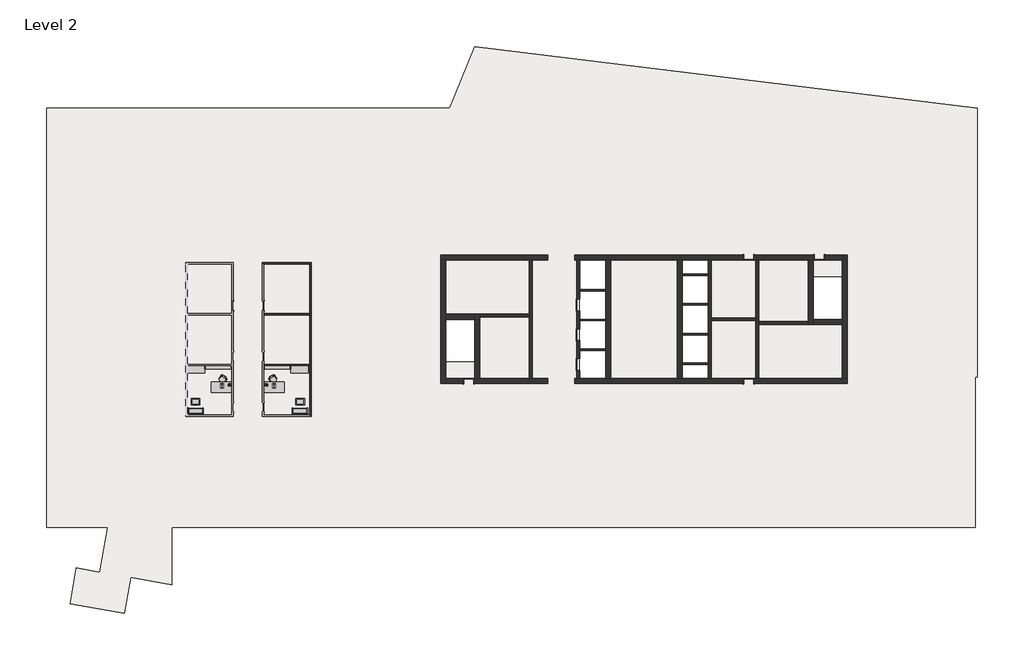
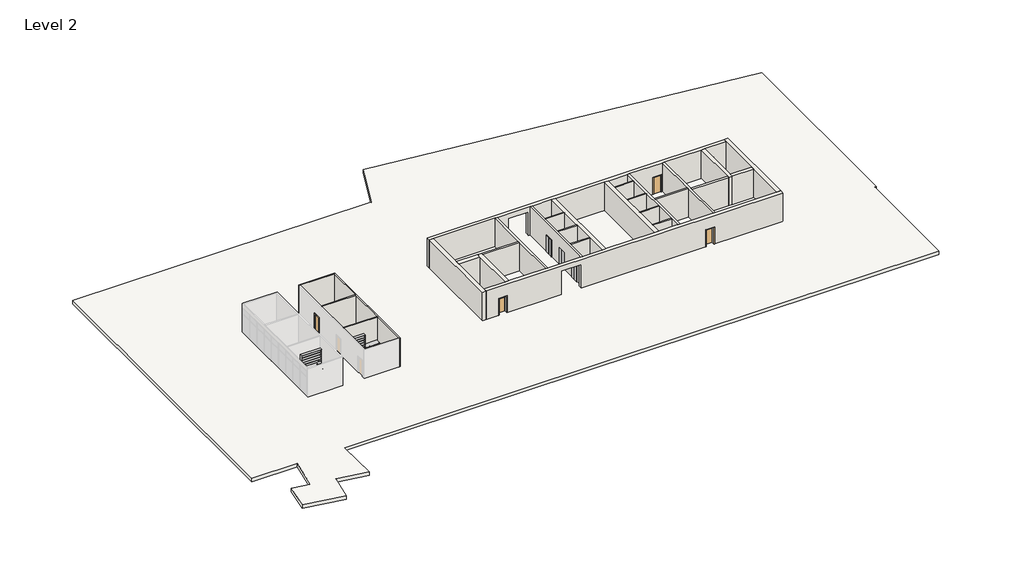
# One storey, part 2 of 2: 28 walls, 12 furniture elements, 7 proxies, 6 doors, 1 slab.
"""IFC4 building model written with IfcOpenShell, lengths in millimetres."""

from ifc_helpers import new_model, si_unit, frame, origin, place, context, project, spatial, polyline, outline, extrude, faceted_brep, transform, mapped, element, save
from components import entourage_0ad6723a, entourage_8dadc95b, proxy_7fed659c, phone_phone_5230e7aa, phone_phone_b8b7aebd, door_82111de5, door_92889684, door_3c99239a, door_aec9db07, chair_executive_chair_executive_8d69e98c, chair_executive_chair_executive_a5be4872, furniture_894c625b, furniture_2f1724fb, furniture_2fc54265, furniture_91cd4dc0, furniture_b1da5ad0, furniture_33c9adaf, furniture_22419f35, furniture_8ec9ccbf, furniture_5f90431c, furniture_32e53e92

model = new_model("IFC4")

# Units and contexts
model_context = context("Model", 3, world=origin())
ifc_project = project(units=[si_unit("LENGTHUNIT", "METRE", prefix="MILLI")], contexts=[model_context])

# Site, building, storey
site = spatial("IfcSite", under=ifc_project)
building = spatial("IfcBuilding", under=site)
storey = spatial("IfcBuildingStorey", under=building, Name="Level 2", Elevation=3657.6)

# Proxies
placement = place(None, origin())
entourage_shape = entourage_0ad6723a(model_context)
element("IfcBuildingElementProxy", 1, Name="RPC Notebook Computer : RPC Notebook Computer", ObjectType="RPC Notebook Computer : RPC Notebook Computer", at=placement, inside=storey, context=model_context, shape_type="MappedRepresentation", body=[
    mapped(entourage_shape, transform((-52901.4856498, -14963.1103492, 4419.6), x_axis=(-1.0, 0.0, 0.0), y_axis=(0.0, -1.0, 0.0), z_axis=(0.0, 0.0, 1.0))),
])
entourage_2_shape = entourage_8dadc95b(model_context)
element("IfcBuildingElementProxy", 2, Name="RPC Notebook Computer : RPC Notebook Computer", ObjectType="RPC Notebook Computer : RPC Notebook Computer", at=placement, inside=storey, context=model_context, shape_type="MappedRepresentation", body=[
    mapped(entourage_2_shape, transform((-48216.9999355, -14963.1103492, 4419.6), x_axis=(1.0, 0.0, 0.0), y_axis=(0.0, 1.0, 0.0), z_axis=(0.0, 0.0, 1.0))),
])
proxy_shape = proxy_7fed659c(model_context)
element("IfcBuildingElementProxy", 3, Name="Elevator%20Door-Center[1] : 42\" x 84\"", ObjectType="Elevator%20Door-Center[1] : 42\" x 84\"", at=placement, inside=storey, context=model_context, shape_type="MappedRepresentation", body=[
    mapped(proxy_shape, transform((-20852.1285069, -7663.0747049, 3657.6), x_axis=(0.0, 1.0, 0.0), y_axis=(-1.0, 0.0, 0.0), z_axis=(0.0, 0.0, 1.0))),
])
element("IfcBuildingElementProxy", 4, Name="Elevator%20Door-Center[1] : 42\" x 84\"", ObjectType="Elevator%20Door-Center[1] : 42\" x 84\"", at=placement, inside=storey, context=model_context, shape_type="MappedRepresentation", body=[
    mapped(proxy_shape, transform((-20852.1285069, -10330.0747049, 3657.6), x_axis=(0.0, 1.0, 0.0), y_axis=(-1.0, 0.0, 0.0), z_axis=(0.0, 0.0, 1.0))),
])
element("IfcBuildingElementProxy", 5, Name="Elevator%20Door-Center[1] : 42\" x 84\"", ObjectType="Elevator%20Door-Center[1] : 42\" x 84\"", at=placement, inside=storey, context=model_context, shape_type="MappedRepresentation", body=[
    mapped(proxy_shape, transform((-20852.1285069, -12997.0747049, 3657.6), x_axis=(0.0, 1.0, 0.0), y_axis=(-1.0, 0.0, 0.0), z_axis=(0.0, 0.0, 1.0))),
])
phone_phone_shape = phone_phone_5230e7aa(model_context)
element("IfcBuildingElementProxy", 6, Name="Phone : Phone", ObjectType="Phone : Phone", at=placement, inside=storey, context=model_context, shape_type="MappedRepresentation", body=[
    mapped(phone_phone_shape, transform((-51981.0043036, -15147.0065782, 4419.6), x_axis=(1.0, 0.0, 0.0), y_axis=(0.0, 1.0, 0.0), z_axis=(0.0, 0.0, 1.0))),
])
phone_phone_2_shape = phone_phone_b8b7aebd(model_context)
element("IfcBuildingElementProxy", 7, Name="Phone : Phone", ObjectType="Phone : Phone", at=placement, inside=storey, context=model_context, shape_type="MappedRepresentation", body=[
    mapped(phone_phone_2_shape, transform((-49137.4812816, -15147.0065782, 4419.6), x_axis=(-1.0, 0.0, 0.0), y_axis=(0.0, -1.0, 0.0), z_axis=(0.0, 0.0, 1.0))),
])

# Doors
door_shape = door_82111de5(model_context)
element("IfcDoor", 8, ObjectType="Single-Flush : 34\" x 80\"", at=placement, inside=storey, context=model_context, shape_type="MappedRepresentation", body=[
    mapped(door_shape, transform((-51923.5856498, -7813.0103492, 3657.6), x_axis=(0.0, -1.0, 0.0), y_axis=(1.0, 0.0, 0.0), z_axis=(0.0, 0.0, 1.0))),
])
door_2_shape = door_92889684(model_context)
element("IfcDoor", 9, ObjectType="Single-Flush : 34\" x 80\"", at=placement, inside=storey, context=model_context, shape_type="MappedRepresentation", body=[
    mapped(door_2_shape, transform((-49194.8999355, -7813.0103492, 3657.6), x_axis=(0.0, -1.0, 0.0), y_axis=(1.0, 0.0, 0.0), z_axis=(0.0, 0.0, 1.0))),
])
door_3_shape = door_3c99239a(model_context)
element("IfcDoor", 10, ObjectType="Single-Flush : 36\" x 84\"", at=placement, inside=storey, context=model_context, shape_type="MappedRepresentation", body=[
    mapped(door_3_shape, transform((-30700.0713641, -14594.8103492, 3657.6), x_axis=(1.0, 0.0, 0.0), y_axis=(0.0, 1.0, 0.0), z_axis=(0.0, 0.0, 1.0))),
])
element("IfcDoor", 11, ObjectType="Single-Flush : 36\" x 84\"", at=placement, inside=storey, context=model_context, shape_type="MappedRepresentation", body=[
    mapped(door_3_shape, transform((817.7000645, -3469.6103492, 3657.6), x_axis=(-1.0, 0.0, 0.0), y_axis=(0.0, -1.0, 0.0), z_axis=(0.0, 0.0, 1.0))),
])
element("IfcDoor", 12, ObjectType="Single-Flush : 36\" x 84\"", at=placement, inside=storey, context=model_context, shape_type="MappedRepresentation", body=[
    mapped(door_3_shape, transform((-5525.0427926, -14594.8103492, 3657.6), x_axis=(1.0, 0.0, 0.0), y_axis=(0.0, 1.0, 0.0), z_axis=(0.0, 0.0, 1.0))),
])
door_4_shape = door_aec9db07(model_context)
element("IfcDoor", 13, ObjectType="Single-Flush : 36\" x 84\"", at=placement, inside=storey, context=model_context, shape_type="MappedRepresentation", body=[
    mapped(door_4_shape, transform((-5525.0427926, -3469.6103492, 3657.6), x_axis=(1.0, 0.0, 0.0), y_axis=(0.0, 1.0, 0.0), z_axis=(0.0, 0.0, 1.0))),
])

# Furniture
chair_executive_chair_executive_shape = chair_executive_chair_executive_8d69e98c(model_context)
element("IfcFurniture", 14, ObjectType="Chair-Executive : Chair-Executive", at=placement, inside=storey, context=model_context, shape_type="MappedRepresentation", body=[
    mapped(chair_executive_chair_executive_shape, transform((-52699.1922211, -14498.6688157, 3657.6), x_axis=(-0.838670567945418, 0.5446390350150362, 0.0), y_axis=(-0.5446390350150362, -0.838670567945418, 0.0), z_axis=(0.0, 0.0, 1.0))),
])
chair_executive_chair_executive_2_shape = chair_executive_chair_executive_a5be4872(model_context)
element("IfcFurniture", 15, ObjectType="Chair-Executive : Chair-Executive", at=placement, inside=storey, context=model_context, shape_type="MappedRepresentation", body=[
    mapped(chair_executive_chair_executive_2_shape, transform((-48419.2933641, -14498.6688157, 3657.6), x_axis=(0.8386705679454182, 0.5446390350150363, 0.0), y_axis=(-0.5446390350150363, 0.8386705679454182, 0.0), z_axis=(0.0, 0.0, 1.0))),
])
furniture_shape = furniture_894c625b(model_context)
element("IfcFurniture", 16, ObjectType="Credenza : 60\" x 24\"", at=placement, inside=storey, context=model_context, shape_type="MappedRepresentation", body=[
    mapped(furniture_shape, transform((-55272.4299121, -13519.8906771, 3657.6), x_axis=(1.0, 0.0, 0.0), y_axis=(0.0, 1.0, 0.0), z_axis=(0.0, 0.0, 1.0))),
])
furniture_2_shape = furniture_2f1724fb(model_context)
element("IfcFurniture", 17, ObjectType="Credenza : 60\" x 24\"", at=placement, inside=storey, context=model_context, shape_type="MappedRepresentation", body=[
    mapped(furniture_2_shape, transform((-45846.0556732, -13519.8906771, 3657.6), x_axis=(-1.0, 0.0, 0.0), y_axis=(0.0, -1.0, 0.0), z_axis=(0.0, 0.0, 1.0))),
])
furniture_3_shape = furniture_2fc54265(model_context)
element("IfcFurniture", 18, ObjectType="Desk : 72\" x 36\"", at=placement, inside=storey, context=model_context, shape_type="MappedRepresentation", body=[
    mapped(furniture_3_shape, transform((-53815.8856498, -15610.8103492, 3657.6), x_axis=(1.0000000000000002, 0.0, 0.0), y_axis=(0.0, 1.0000000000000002, 0.0), z_axis=(0.0, 0.0, 1.0))),
])
furniture_4_shape = furniture_91cd4dc0(model_context)
element("IfcFurniture", 19, ObjectType="Desk : 72\" x 36\"", at=placement, inside=storey, context=model_context, shape_type="MappedRepresentation", body=[
    mapped(furniture_4_shape, transform((-47302.5999355, -15610.8103492, 3657.6), x_axis=(-1.0, 0.0, 0.0), y_axis=(0.0, -1.0, 0.0), z_axis=(0.0, 0.0, 1.0))),
])
furniture_5_shape = furniture_b1da5ad0(model_context)
element("IfcFurniture", 20, ObjectType="Shelving : 96\" x 12\" x 84\"", at=placement, inside=storey, context=model_context, shape_type="MappedRepresentation", body=[
    mapped(furniture_5_shape, transform((-53206.2856498, -13058.1103492, 3657.6), x_axis=(1.0, 0.0, 0.0), y_axis=(0.0, 1.0, 0.0), z_axis=(0.0, 0.0, 1.0))),
])
furniture_6_shape = furniture_33c9adaf(model_context)
element("IfcFurniture", 21, ObjectType="Shelving : 96\" x 12\" x 84\"", at=placement, inside=storey, context=model_context, shape_type="MappedRepresentation", body=[
    mapped(furniture_6_shape, transform((-47912.1999355, -13058.1103492, 3657.6), x_axis=(-1.0, 0.0, 0.0), y_axis=(0.0, -1.0, 0.0), z_axis=(0.0, 0.0, 1.0))),
])
furniture_7_shape = furniture_22419f35(model_context)
element("IfcFurniture", 22, ObjectType="Sofa : 54\"", at=placement, inside=storey, context=model_context, shape_type="MappedRepresentation", body=[
    mapped(furniture_7_shape, transform((-55167.915158, -17174.6119184, 3657.6), x_axis=(-1.0, 0.0, 0.0), y_axis=(0.0, -1.0, 0.0), z_axis=(0.0, 0.0, 1.0))),
])
furniture_8_shape = furniture_8ec9ccbf(model_context)
element("IfcFurniture", 23, ObjectType="Sofa : 54\"", at=placement, inside=storey, context=model_context, shape_type="MappedRepresentation", body=[
    mapped(furniture_8_shape, transform((-45950.5704273, -17174.6119184, 3657.6), x_axis=(1.0, 0.0, 0.0), y_axis=(0.0, 1.0, 0.0), z_axis=(0.0, 0.0, 1.0))),
])
furniture_9_shape = furniture_5f90431c(model_context)
element("IfcFurniture", 24, ObjectType="Table-Coffee : 31\" x 28\" x 24\"", at=placement, inside=storey, context=model_context, shape_type="MappedRepresentation", body=[
    mapped(furniture_9_shape, transform((-55168.474572, -16475.4317834, 3657.6), x_axis=(0.0, 1.0, 0.0), y_axis=(-1.0, 0.0, 0.0), z_axis=(0.0, 0.0, 1.0))),
])
furniture_10_shape = furniture_32e53e92(model_context)
element("IfcFurniture", 25, ObjectType="Table-Coffee : 31\" x 28\" x 24\"", at=placement, inside=storey, context=model_context, shape_type="MappedRepresentation", body=[
    mapped(furniture_10_shape, transform((-45950.0110133, -16475.4317834, 3657.6), x_axis=(0.0, 1.0, 0.0), y_axis=(-1.0, 0.0, 0.0), z_axis=(0.0, 0.0, 1.0))),
])

# Slab
element("IfcSlab", 26, ObjectType="Steel Bar Joist 14\" - Concrete", at=placement, inside=storey, context=model_context, shape_type="SweptSolid", body=[
    extrude(outline(polyline([(-68660.7599961, -27742.4853492), (-68660.7599961, 9954.2896508), (-32421.4843139, 9954.2896508), (-30175.817983, 15512.5088637), (15043.3054088, 9960.2986536), (15043.3054088, -14218.4266737), (14830.5804088, -14218.4266737), (14830.5804088, -27735.220667), (-57415.8125003, -27735.220667), (-57415.8125003, -32919.911766), (-61087.9334678, -32272.417763), (-61658.0117526, -35505.4923758), (-66551.3983764, -34642.656287), (-65981.3200915, -31409.5816742), (-63880.1342697, -31780.0774261), (-63168.1978494, -27742.4853492), (-68660.7599961, -27742.4853492)]), holes=[polyline([(-32750.2142212, -9032.2103492), (-32750.2142212, -12842.2103492), (-30166.6713641, -12842.2103492), (-30166.6713641, -9032.2103492), (-32750.2142212, -9032.2103492)]), polyline([(-20725.1285069, -3698.2103492), (-20725.1285069, -14366.2103492), (-18385.1284437, -14366.2103492), (-18385.1284437, -3698.2103492), (-20725.1285069, -3698.2103492)]), polyline([(-9157.2427926, -3698.2103492), (-11497.2428559, -3698.2103492), (-11497.2428559, -14366.2103492), (-9157.2427926, -14366.2103492), (-9157.2427926, -3698.2103492)]), polyline([(2867.8429217, -9032.2103492), (2867.8429217, -5222.2103492), (284.3000645, -5222.2103492), (284.3000645, -9032.2103492), (2867.8429217, -9032.2103492)])]), frame((0.0, 0.0, 3222.625), z_axis=(0.0, 0.0, 1.0), x_axis=(1.0, 0.0, 0.0)), (0.0, 0.0, 1.0), 434.975),
])

# Walls
element("IfcWall", 27, ObjectType="Core-shaft 10\" Concrete", at=placement, inside=storey, context=model_context, shape_type="SweptSolid", body=[
    extrude(outline(polyline([(-14366.2103492, 7315.2), (-3698.2103492, 7315.2), (-3698.2103492, 3657.6), (-7222.4603492, 3657.6), (-7222.4603492, 5816.6), (-8301.9603492, 5816.6), (-8301.9603492, 3657.6), (-9889.4603492, 3657.6), (-9889.4603492, 5816.6), (-10968.9603492, 5816.6), (-10968.9603492, 3657.6), (-12556.4603492, 3657.6), (-12556.4603492, 5816.6), (-13635.9603492, 5816.6), (-13635.9603492, 3657.6), (-14366.2103492, 3657.6), (-14366.2103492, 7315.2)])), frame((-20979.1285069, 0.0, 0.0), z_axis=(1.0, 0.0, 0.0), x_axis=(0.0, 1.0, 0.0)), (0.0, 0.0, 1.0), 254.0),
])
element("IfcWall", 28, ObjectType="Core-shaft 10\" Concrete", at=placement, inside=storey, context=model_context, shape_type="Brep", body=[
    faceted_brep([(-24992.3285069, -14366.2103492, 3657.6), (-24992.3285069, -3698.2103492, 3657.6), (-24992.3285069, -3698.2103492, 7315.2), (-24992.3285069, -14366.2103492, 7315.2), (-25246.3285069, -14366.2103492, 3657.6), (-25246.3285069, -14366.2103492, 7315.2), (-25246.3285069, -8829.0103492, 7315.2), (-25246.3285069, -8575.0103492, 7315.2), (-25246.3285069, -3698.2103492, 7315.2), (-25246.3285069, -3698.2103492, 3657.6), (-25246.3285069, -8575.0103492, 3657.6), (-25246.3285069, -8829.0103492, 3657.6)], [[[0, 1, 2, 3]], [[4, 5, 6, 7, 8, 9, 10, 11]], [[1, 0, 4, 11, 10, 9]], [[3, 2, 8, 7, 6, 5]], [[2, 1, 9, 8]], [[0, 3, 5, 4]]]),
])
element("IfcWall", 29, ObjectType="Core-shaft 10\" Concrete", at=placement, inside=storey, context=model_context, shape_type="SweptSolid", body=[
    extrude(outline(polyline([(-25246.3285069, -8829.0103492), (-29709.4713641, -8829.0103492), (-29709.4713641, -8575.0103492), (-25246.3285069, -8575.0103492), (-25246.3285069, -8829.0103492)])), frame((0.0, 0.0, 3657.6), z_axis=(0.0, 0.0, 1.0), x_axis=(1.0, 0.0, 0.0)), (0.0, 0.0, 1.0), 3657.6),
])
element("IfcWall", 30, ObjectType="Core-shaft 10\" Concrete", at=placement, inside=storey, context=model_context, shape_type="SweptSolid", body=[
    extrude(outline(polyline([(-8903.2427926, -3698.2103492), (-8903.2427926, -14366.2103492), (-9157.2427926, -14366.2103492), (-9157.2427926, -3698.2103492), (-8903.2427926, -3698.2103492)])), frame((0.0, 0.0, 3657.6), z_axis=(0.0, 0.0, 1.0), x_axis=(1.0, 0.0, 0.0)), (0.0, 0.0, 1.0), 3657.6),
])
element("IfcWall", 31, ObjectType="Core-shaft 10\" Concrete", at=placement, inside=storey, context=model_context, shape_type="Brep", body=[
    faceted_brep([(-4636.0427926, -14366.2103492, 3657.6), (-4636.0427926, -9489.4103492, 3657.6), (-4636.0427926, -9235.4103492, 3657.6), (-4636.0427926, -3698.2103492, 3657.6), (-4636.0427926, -3698.2103492, 7315.2), (-4636.0427926, -9235.4103492, 7315.2), (-4636.0427926, -9489.4103492, 7315.2), (-4636.0427926, -14366.2103492, 7315.2), (-4890.0427926, -14366.2103492, 3657.6), (-4890.0427926, -14366.2103492, 7315.2), (-4890.0427926, -3698.2103492, 7315.2), (-4890.0427926, -3698.2103492, 3657.6)], [[[0, 1, 2, 3, 4, 5, 6, 7]], [[8, 9, 10, 11]], [[3, 2, 1, 0, 8, 11]], [[7, 6, 5, 4, 10, 9]], [[4, 3, 11, 10]], [[0, 7, 9, 8]]]),
])
element("IfcWall", 32, ObjectType="Core-shaft 10\" Concrete", at=placement, inside=storey, context=model_context, shape_type="SweptSolid", body=[
    extrude(outline(polyline([(-4636.0427926, -9235.4103492), (-172.8999355, -9235.4103492), (-172.8999355, -9489.4103492), (-4636.0427926, -9489.4103492), (-4636.0427926, -9235.4103492)])), frame((0.0, 0.0, 3657.6), z_axis=(0.0, 0.0, 1.0), x_axis=(1.0, 0.0, 0.0)), (0.0, 0.0, 1.0), 3657.6),
])
element("IfcWall", 33, ObjectType="Core-shaft 10\" Concrete", at=placement, inside=storey, context=model_context, shape_type="SweptSolid", body=[
    extrude(outline(polyline([(-8903.2427926, -8905.2103492), (-4890.0427926, -8905.2103492), (-4890.0427926, -9159.2103492), (-8903.2427926, -9159.2103492), (-8903.2427926, -8905.2103492)])), frame((0.0, 0.0, 3657.6), z_axis=(0.0, 0.0, 1.0), x_axis=(1.0, 0.0, 0.0)), (0.0, 0.0, 1.0), 3657.6),
])
element("IfcWall", 34, ObjectType="Core-shaft 18\" Concrete", at=placement, inside=storey, context=model_context, shape_type="Brep", body=[
    faceted_brep([(3325.0429217, -14366.2103492, 3657.6), (2867.8429217, -14366.2103492, 3657.6), (-4636.0427926, -14366.2103492, 3657.6), (-4890.0427926, -14366.2103492, 3657.6), (-5067.8427926, -14366.2103492, 3657.6), (-5067.8427926, -14366.2103492, 5791.2), (-5982.2427926, -14366.2103492, 5791.2), (-5982.2427926, -14366.2103492, 3657.6), (-8903.2427926, -14366.2103492, 3657.6), (-9157.2427926, -14366.2103492, 3657.6), (-11497.2428559, -14366.2103492, 3657.6), (-11954.4428559, -14366.2103492, 3657.6), (-17927.9284437, -14366.2103492, 3657.6), (-18385.1284437, -14366.2103492, 3657.6), (-20725.1285069, -14366.2103492, 3657.6), (-20979.1285069, -14366.2103492, 3657.6), (-21167.8142212, -14366.2103492, 3657.6), (-21167.8142212, -14366.2103492, 6705.6), (-23606.2142212, -14366.2103492, 6705.6), (-23606.2142212, -14366.2103492, 3657.6), (-24992.3285069, -14366.2103492, 3657.6), (-25246.3285069, -14366.2103492, 3657.6), (-29709.4713641, -14366.2103492, 3657.6), (-30166.6713641, -14366.2103492, 3657.6), (-30242.8713641, -14366.2103492, 3657.6), (-30242.8713641, -14366.2103492, 5791.2), (-31157.2713641, -14366.2103492, 5791.2), (-31157.2713641, -14366.2103492, 3657.6), (-32750.2142212, -14366.2103492, 3657.6), (-32750.2142212, -14366.2103492, 7315.2), (-30166.6713641, -14366.2103492, 7315.2), (-29709.4713641, -14366.2103492, 7315.2), (-25246.3285069, -14366.2103492, 7315.2), (-24992.3285069, -14366.2103492, 7315.2), (-20979.1285069, -14366.2103492, 7315.2), (-20725.1285069, -14366.2103492, 7315.2), (-18385.1284437, -14366.2103492, 7315.2), (-17927.9284437, -14366.2103492, 7315.2), (-11954.4428559, -14366.2103492, 7315.2), (-11497.2428559, -14366.2103492, 7315.2), (-9157.2427926, -14366.2103492, 7315.2), (-8903.2427926, -14366.2103492, 7315.2), (-4890.0427926, -14366.2103492, 7315.2), (-4636.0427926, -14366.2103492, 7315.2), (2867.8429217, -14366.2103492, 7315.2), (3325.0429217, -14366.2103492, 7315.2), (-5067.8427926, -14823.4103492, 5791.2), (-5067.8427926, -14823.4103492, 3657.6), (3325.0429217, -14823.4103492, 3657.6), (3325.0429217, -14823.4103492, 7315.2), (-32750.2142212, -14823.4103492, 7315.2), (-32750.2142212, -14823.4103492, 3657.6), (-31157.2713641, -14823.4103492, 3657.6), (-31157.2713641, -14823.4103492, 5791.2), (-30242.8713641, -14823.4103492, 5791.2), (-30242.8713641, -14823.4103492, 3657.6), (-23606.2142212, -14823.4103492, 3657.6), (-23606.2142212, -14823.4103492, 6705.6), (-21167.8142212, -14823.4103492, 6705.6), (-21167.8142212, -14823.4103492, 3657.6), (-5982.2427926, -14823.4103492, 3657.6), (-5982.2427926, -14823.4103492, 5791.2)], [[[0, 1, 2, 3, 4, 5, 6, 7, 8, 9, 10, 11, 12, 13, 14, 15, 16, 17, 18, 19, 20, 21, 22, 23, 24, 25, 26, 27, 28, 29, 30, 31, 32, 33, 34, 35, 36, 37, 38, 39, 40, 41, 42, 43, 44, 45]], [[46, 47, 48, 49, 50, 51, 52, 53, 54, 55, 56, 57, 58, 59, 60, 61]], [[52, 51, 28, 27]], [[56, 55, 24, 23, 22, 21, 20, 19]], [[60, 59, 16, 15, 14, 13, 12, 11, 10, 9, 8, 7]], [[48, 47, 4, 3, 2, 1, 0]], [[45, 44, 43, 42, 41, 40, 39, 38, 37, 36, 35, 34, 33, 32, 31, 30, 29, 50, 49]], [[17, 58, 57, 18]], [[58, 17, 16, 59]], [[18, 57, 56, 19]], [[25, 24, 55, 54]], [[26, 25, 54, 53]], [[27, 26, 53, 52]], [[5, 4, 47, 46]], [[6, 5, 46, 61]], [[7, 6, 61, 60]], [[0, 45, 49, 48]], [[29, 28, 51, 50]]]),
])
element("IfcWall", 35, ObjectType="Core-shaft 18\" Concrete", at=placement, inside=storey, context=model_context, shape_type="Brep", body=[
    faceted_brep([(2867.8429217, -3241.0103492, 3657.6), (2867.8429217, -3698.2103492, 3657.6), (2867.8429217, -9032.2103492, 3657.6), (2867.8429217, -9489.4103492, 3657.6), (2867.8429217, -14366.2103492, 3657.6), (2867.8429217, -14366.2103492, 7315.2), (2867.8429217, -9489.4103492, 7315.2), (2867.8429217, -9032.2103492, 7315.2), (2867.8429217, -3698.2103492, 7315.2), (2867.8429217, -3241.0103492, 7315.2), (3325.0429217, -3241.0103492, 3657.6), (3325.0429217, -3241.0103492, 7315.2), (3325.0429217, -14366.2103492, 7315.2), (3325.0429217, -14366.2103492, 3657.6)], [[[0, 1, 2, 3, 4, 5, 6, 7, 8, 9]], [[10, 11, 12, 13]], [[4, 3, 2, 1, 0, 10, 13]], [[9, 8, 7, 6, 5, 12, 11]], [[0, 9, 11, 10]], [[5, 4, 13, 12]]]),
])
element("IfcWall", 36, ObjectType="Core-shaft 18\" Concrete", at=placement, inside=storey, context=model_context, shape_type="Brep", body=[
    faceted_brep([(-5067.8427926, -3698.2103492, 5791.2), (-5067.8427926, -3698.2103492, 3657.6), (-4890.0427926, -3698.2103492, 3657.6), (-4636.0427926, -3698.2103492, 3657.6), (-172.8999355, -3698.2103492, 3657.6), (284.3000645, -3698.2103492, 3657.6), (360.5000645, -3698.2103492, 3657.6), (360.5000645, -3698.2103492, 5791.2), (1274.9000645, -3698.2103492, 5791.2), (1274.9000645, -3698.2103492, 3657.6), (2867.8429217, -3698.2103492, 3657.6), (2867.8429217, -3698.2103492, 7315.2), (284.3000645, -3698.2103492, 7315.2), (-172.8999355, -3698.2103492, 7315.2), (-4636.0427926, -3698.2103492, 7315.2), (-4890.0427926, -3698.2103492, 7315.2), (-8903.2427926, -3698.2103492, 7315.2), (-9157.2427926, -3698.2103492, 7315.2), (-11497.2428559, -3698.2103492, 7315.2), (-11954.4428559, -3698.2103492, 7315.2), (-17927.9284437, -3698.2103492, 7315.2), (-18385.1284437, -3698.2103492, 7315.2), (-20725.1285069, -3698.2103492, 7315.2), (-20979.1285069, -3698.2103492, 7315.2), (-24992.3285069, -3698.2103492, 7315.2), (-25246.3285069, -3698.2103492, 7315.2), (-32750.2142212, -3698.2103492, 7315.2), (-33207.4142212, -3698.2103492, 7315.2), (-33207.4142212, -3698.2103492, 3657.6), (-32750.2142212, -3698.2103492, 3657.6), (-25246.3285069, -3698.2103492, 3657.6), (-24992.3285069, -3698.2103492, 3657.6), (-23606.2142212, -3698.2103492, 3657.6), (-23606.2142212, -3698.2103492, 6705.6), (-21167.8142212, -3698.2103492, 6705.6), (-21167.8142212, -3698.2103492, 3657.6), (-20979.1285069, -3698.2103492, 3657.6), (-20725.1285069, -3698.2103492, 3657.6), (-18385.1284437, -3698.2103492, 3657.6), (-17927.9284437, -3698.2103492, 3657.6), (-11954.4428559, -3698.2103492, 3657.6), (-11497.2428559, -3698.2103492, 3657.6), (-9157.2427926, -3698.2103492, 3657.6), (-8903.2427926, -3698.2103492, 3657.6), (-5982.2427926, -3698.2103492, 3657.6), (-5982.2427926, -3698.2103492, 5791.2), (360.5000645, -3241.0103492, 3657.6), (-5067.8427926, -3241.0103492, 3657.6), (-5067.8427926, -3241.0103492, 5791.2), (-5982.2427926, -3241.0103492, 5791.2), (-5982.2427926, -3241.0103492, 3657.6), (-21167.8142212, -3241.0103492, 3657.6), (-21167.8142212, -3241.0103492, 6705.6), (-23606.2142212, -3241.0103492, 6705.6), (-23606.2142212, -3241.0103492, 3657.6), (-33207.4142212, -3241.0103492, 3657.6), (-33207.4142212, -3241.0103492, 7315.2), (2867.8429217, -3241.0103492, 7315.2), (2867.8429217, -3241.0103492, 3657.6), (1274.9000645, -3241.0103492, 3657.6), (1274.9000645, -3241.0103492, 5791.2), (360.5000645, -3241.0103492, 5791.2)], [[[0, 1, 2, 3, 4, 5, 6, 7, 8, 9, 10, 11, 12, 13, 14, 15, 16, 17, 18, 19, 20, 21, 22, 23, 24, 25, 26, 27, 28, 29, 30, 31, 32, 33, 34, 35, 36, 37, 38, 39, 40, 41, 42, 43, 44, 45]], [[46, 47, 48, 49, 50, 51, 52, 53, 54, 55, 56, 57, 58, 59, 60, 61]], [[59, 58, 10, 9]], [[44, 43, 42, 41, 40, 39, 38, 37, 36, 35, 51, 50]], [[6, 5, 4, 3, 2, 1, 47, 46]], [[28, 55, 54, 32, 31, 30, 29]], [[27, 26, 25, 24, 23, 22, 21, 20, 19, 18, 17, 16, 15, 14, 13, 12, 11, 57, 56]], [[33, 53, 52, 34]], [[53, 33, 32, 54]], [[34, 52, 51, 35]], [[7, 6, 46, 61]], [[8, 7, 61, 60]], [[9, 8, 60, 59]], [[48, 47, 1, 0]], [[49, 48, 0, 45]], [[50, 49, 45, 44]], [[28, 27, 56, 55]], [[11, 10, 58, 57]]]),
])
element("IfcWall", 37, ObjectType="Core-shaft 18\" Concrete", at=placement, inside=storey, context=model_context, shape_type="Brep", body=[
    faceted_brep([(-32750.2142212, -14823.4103492, 3657.6), (-32750.2142212, -14366.2103492, 3657.6), (-32750.2142212, -9032.2103492, 3657.6), (-32750.2142212, -8575.0103492, 3657.6), (-32750.2142212, -3698.2103492, 3657.6), (-32750.2142212, -3698.2103492, 7315.2), (-32750.2142212, -8575.0103492, 7315.2), (-32750.2142212, -9032.2103492, 7315.2), (-32750.2142212, -14366.2103492, 7315.2), (-32750.2142212, -14823.4103492, 7315.2), (-33207.4142212, -14823.4103492, 3657.6), (-33207.4142212, -14823.4103492, 7315.2), (-33207.4142212, -3698.2103492, 7315.2), (-33207.4142212, -3698.2103492, 3657.6)], [[[0, 1, 2, 3, 4, 5, 6, 7, 8, 9]], [[10, 11, 12, 13]], [[4, 3, 2, 1, 0, 10, 13]], [[9, 8, 7, 6, 5, 12, 11]], [[0, 9, 11, 10]], [[5, 4, 13, 12]]]),
])
element("IfcWall", 38, ObjectType="Core-shaft 18\" Concrete", at=placement, inside=storey, context=model_context, shape_type="SweptSolid", body=[
    extrude(outline(polyline([(-18385.1284437, -14366.2103492), (-18385.1284437, -3698.2103492), (-17927.9284437, -3698.2103492), (-17927.9284437, -14366.2103492), (-18385.1284437, -14366.2103492)])), frame((0.0, 0.0, 3657.6), z_axis=(0.0, 0.0, 1.0), x_axis=(1.0, 0.0, 0.0)), (0.0, 0.0, 1.0), 3657.6),
])
element("IfcWall", 39, ObjectType="Core-shaft 18\" Concrete", at=placement, inside=storey, context=model_context, shape_type="Brep", body=[
    faceted_brep([(-29709.4713641, -14366.2103492, 3657.6), (-29709.4713641, -8829.0103492, 3657.6), (-29709.4713641, -8575.0103492, 3657.6), (-29709.4713641, -8575.0103492, 7315.2), (-29709.4713641, -8829.0103492, 7315.2), (-29709.4713641, -14366.2103492, 7315.2), (-30166.6713641, -14366.2103492, 3657.6), (-30166.6713641, -14366.2103492, 7315.2), (-30166.6713641, -9032.2103492, 7315.2), (-30166.6713641, -8575.0103492, 7315.2), (-30166.6713641, -8575.0103492, 3657.6), (-30166.6713641, -9032.2103492, 3657.6)], [[[0, 1, 2, 3, 4, 5]], [[6, 7, 8, 9, 10, 11]], [[2, 1, 0, 6, 11, 10]], [[5, 4, 3, 9, 8, 7]], [[3, 2, 10, 9]], [[0, 5, 7, 6]]]),
])
element("IfcWall", 40, ObjectType="Core-shaft 18\" Concrete", at=placement, inside=storey, context=model_context, shape_type="SweptSolid", body=[
    extrude(outline(polyline([(-32750.2142212, -8575.0103492), (-30166.6713641, -8575.0103492), (-30166.6713641, -9032.2103492), (-32750.2142212, -9032.2103492), (-32750.2142212, -8575.0103492)])), frame((0.0, 0.0, 3657.6), z_axis=(0.0, 0.0, 1.0), x_axis=(1.0, 0.0, 0.0)), (0.0, 0.0, 1.0), 3657.6),
])
element("IfcWall", 41, ObjectType="Core-shaft 18\" Concrete", at=placement, inside=storey, context=model_context, shape_type="SweptSolid", body=[
    extrude(outline(polyline([(-11954.4428559, -14366.2103492), (-11954.4428559, -3698.2103492), (-11497.2428559, -3698.2103492), (-11497.2428559, -14366.2103492), (-11954.4428559, -14366.2103492)])), frame((0.0, 0.0, 3657.6), z_axis=(0.0, 0.0, 1.0), x_axis=(1.0, 0.0, 0.0)), (0.0, 0.0, 1.0), 3657.6),
])
element("IfcWall", 42, ObjectType="Core-shaft 18\" Concrete", at=placement, inside=storey, context=model_context, shape_type="Brep", body=[
    faceted_brep([(-172.8999355, -3698.2103492, 3657.6), (-172.8999355, -9235.4103492, 3657.6), (-172.8999355, -9489.4103492, 3657.6), (-172.8999355, -9489.4103492, 7315.2), (-172.8999355, -9235.4103492, 7315.2), (-172.8999355, -3698.2103492, 7315.2), (284.3000645, -3698.2103492, 3657.6), (284.3000645, -3698.2103492, 7315.2), (284.3000645, -9032.2103492, 7315.2), (284.3000645, -9489.4103492, 7315.2), (284.3000645, -9489.4103492, 3657.6), (284.3000645, -9032.2103492, 3657.6)], [[[0, 1, 2, 3, 4, 5]], [[6, 7, 8, 9, 10, 11]], [[2, 1, 0, 6, 11, 10]], [[5, 4, 3, 9, 8, 7]], [[3, 2, 10, 9]], [[0, 5, 7, 6]]]),
])
element("IfcWall", 43, ObjectType="Core-shaft 18\" Concrete", at=placement, inside=storey, context=model_context, shape_type="SweptSolid", body=[
    extrude(outline(polyline([(2867.8429217, -9489.4103492), (284.3000645, -9489.4103492), (284.3000645, -9032.2103492), (2867.8429217, -9032.2103492), (2867.8429217, -9489.4103492)])), frame((0.0, 0.0, 3657.6), z_axis=(0.0, 0.0, 1.0), x_axis=(1.0, 0.0, 0.0)), (0.0, 0.0, 1.0), 3657.6),
])
element("IfcWall", 44, ObjectType="Generic - 5\"", at=placement, inside=storey, context=model_context, shape_type="SweptSolid", body=[
    extrude(outline(polyline([(-18385.1284437, -11826.2103492), (-20725.1285069, -11826.2103492), (-20725.1285069, -11699.2103492), (-18385.1284437, -11699.2103492), (-18385.1284437, -11826.2103492)])), frame((0.0, 0.0, 3657.6), z_axis=(0.0, 0.0, 1.0), x_axis=(1.0, 0.0, 0.0)), (0.0, 0.0, 1.0), 3657.6),
])
element("IfcWall", 45, ObjectType="Generic - 5\"", at=placement, inside=storey, context=model_context, shape_type="SweptSolid", body=[
    extrude(outline(polyline([(-18385.1284437, -9159.2103492), (-20725.1285069, -9159.2103492), (-20725.1285069, -9032.2103492), (-18385.1284437, -9032.2103492), (-18385.1284437, -9159.2103492)])), frame((0.0, 0.0, 3657.6), z_axis=(0.0, 0.0, 1.0), x_axis=(1.0, 0.0, 0.0)), (0.0, 0.0, 1.0), 3657.6),
])
element("IfcWall", 46, ObjectType="Generic - 5\"", at=placement, inside=storey, context=model_context, shape_type="SweptSolid", body=[
    extrude(outline(polyline([(-18385.1284437, -6492.2103492), (-20725.1285069, -6492.2103492), (-20725.1285069, -6365.2103492), (-18385.1284437, -6365.2103492), (-18385.1284437, -6492.2103492)])), frame((0.0, 0.0, 3657.6), z_axis=(0.0, 0.0, 1.0), x_axis=(1.0, 0.0, 0.0)), (0.0, 0.0, 1.0), 3657.6),
])
element("IfcWall", 47, ObjectType="Generic - 5\"", at=placement, inside=storey, context=model_context, shape_type="SweptSolid", body=[
    extrude(outline(polyline([(-11497.2428559, -10302.2103492), (-9157.2427926, -10302.2103492), (-9157.2427926, -10429.2103492), (-11497.2428559, -10429.2103492), (-11497.2428559, -10302.2103492)])), frame((0.0, 0.0, 3657.6), z_axis=(0.0, 0.0, 1.0), x_axis=(1.0, 0.0, 0.0)), (0.0, 0.0, 1.0), 3657.6),
])
element("IfcWall", 48, ObjectType="Generic - 5\"", at=placement, inside=storey, context=model_context, shape_type="SweptSolid", body=[
    extrude(outline(polyline([(-11497.2428559, -7635.2103492), (-9157.2427926, -7635.2103492), (-9157.2427926, -7762.2103492), (-11497.2428559, -7762.2103492), (-11497.2428559, -7635.2103492)])), frame((0.0, 0.0, 3657.6), z_axis=(0.0, 0.0, 1.0), x_axis=(1.0, 0.0, 0.0)), (0.0, 0.0, 1.0), 3657.6),
])
element("IfcWall", 49, ObjectType="Generic - 5\"", at=placement, inside=storey, context=model_context, shape_type="SweptSolid", body=[
    extrude(outline(polyline([(-11497.2428559, -4968.2103492), (-9157.2427926, -4968.2103492), (-9157.2427926, -5095.2103492), (-11497.2428559, -5095.2103492), (-11497.2428559, -4968.2103492)])), frame((0.0, 0.0, 3657.6), z_axis=(0.0, 0.0, 1.0), x_axis=(1.0, 0.0, 0.0)), (0.0, 0.0, 1.0), 3657.6),
])
element("IfcWall", 50, ObjectType="Generic - 5\"", at=placement, inside=storey, context=model_context, shape_type="SweptSolid", body=[
    extrude(outline(polyline([(-11497.2428559, -12969.2103492), (-9157.2427926, -12969.2103492), (-9157.2427926, -13096.2103492), (-11497.2428559, -13096.2103492), (-11497.2428559, -12969.2103492)])), frame((0.0, 0.0, 3657.6), z_axis=(0.0, 0.0, 1.0), x_axis=(1.0, 0.0, 0.0)), (0.0, 0.0, 1.0), 3657.6),
])
element("IfcWall", 51, ObjectType="Interior - Generic - 5\"", at=placement, inside=storey, context=model_context, shape_type="Brep", body=[
    faceted_brep([(-44864.1999355, -3939.5103492, 3657.6), (-49258.3999355, -3939.5103492, 3657.6), (-49258.3999355, -3939.5103492, 7315.2), (-44864.1999355, -3939.5103492, 7315.2), (-44864.1999355, -4066.5103492, 3657.6), (-44864.1999355, -4066.5103492, 7315.2), (-44991.1999355, -4066.5103492, 7315.2), (-49131.3999355, -4066.5103492, 7315.2), (-49258.3999355, -4066.5103492, 7315.2), (-49258.3999355, -4066.5103492, 3657.6), (-49131.3999355, -4066.5103492, 3657.6), (-44991.1999355, -4066.5103492, 3657.6)], [[[0, 1, 2, 3]], [[4, 5, 6, 7, 8, 9, 10, 11]], [[1, 0, 4, 11, 10, 9]], [[3, 2, 8, 7, 6, 5]], [[0, 3, 5, 4]], [[2, 1, 9, 8]]]),
])
element("IfcWall", 52, ObjectType="Interior - Generic - 5\"", at=placement, inside=storey, context=model_context, shape_type="Brep", body=[
    faceted_brep([(-44864.1999355, -17782.5103492, 3657.6), (-44864.1999355, -4066.5103492, 3657.6), (-44864.1999355, -4066.5103492, 7315.2), (-44864.1999355, -17782.5103492, 7315.2), (-44991.1999355, -17782.5103492, 3657.6), (-44991.1999355, -17782.5103492, 7315.2), (-44991.1999355, -17655.5103492, 7315.2), (-44991.1999355, -13210.5103492, 7315.2), (-44991.1999355, -13083.5103492, 7315.2), (-44991.1999355, -8638.5103492, 7315.2), (-44991.1999355, -8511.5103492, 7315.2), (-44991.1999355, -4066.5103492, 7315.2), (-44991.1999355, -4066.5103492, 3657.6), (-44991.1999355, -8511.5103492, 3657.6), (-44991.1999355, -8638.5103492, 3657.6), (-44991.1999355, -13083.5103492, 3657.6), (-44991.1999355, -13210.5103492, 3657.6), (-44991.1999355, -17655.5103492, 3657.6)], [[[0, 1, 2, 3]], [[4, 5, 6, 7, 8, 9, 10, 11, 12, 13, 14, 15, 16, 17]], [[1, 0, 4, 17, 16, 15, 14, 13, 12]], [[3, 2, 11, 10, 9, 8, 7, 6, 5]], [[0, 3, 5, 4]], [[2, 1, 12, 11]]]),
])
element("IfcWall", 53, ObjectType="Interior - Generic - 5\"", at=placement, inside=storey, context=model_context, shape_type="SweptSolid", body=[
    extrude(outline(polyline([(-44991.1999355, -8638.5103492), (-49131.3999355, -8638.5103492), (-49131.3999355, -8511.5103492), (-44991.1999355, -8511.5103492), (-44991.1999355, -8638.5103492)])), frame((0.0, 0.0, 3657.6), z_axis=(0.0, 0.0, 1.0), x_axis=(1.0, 0.0, 0.0)), (0.0, 0.0, 1.0), 3657.6),
])
element("IfcWall", 54, ObjectType="Interior - Generic - 5\"", at=placement, inside=storey, context=model_context, shape_type="SweptSolid", body=[
    extrude(outline(polyline([(-44991.1999355, -13210.5103492), (-49131.3999355, -13210.5103492), (-49131.3999355, -13083.5103492), (-44991.1999355, -13083.5103492), (-44991.1999355, -13210.5103492)])), frame((0.0, 0.0, 3657.6), z_axis=(0.0, 0.0, 1.0), x_axis=(1.0, 0.0, 0.0)), (0.0, 0.0, 1.0), 3657.6),
])

save(model, "model.ifc")
